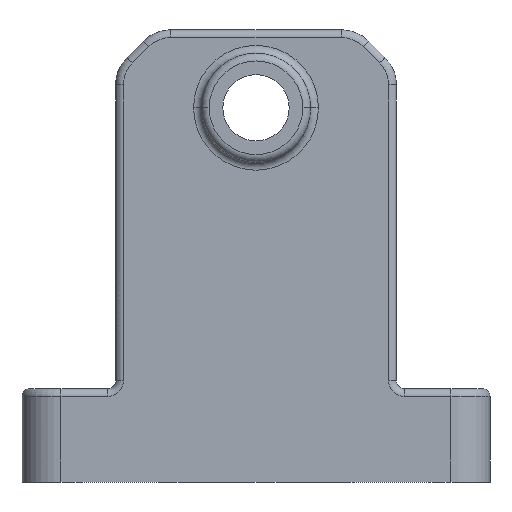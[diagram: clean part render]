
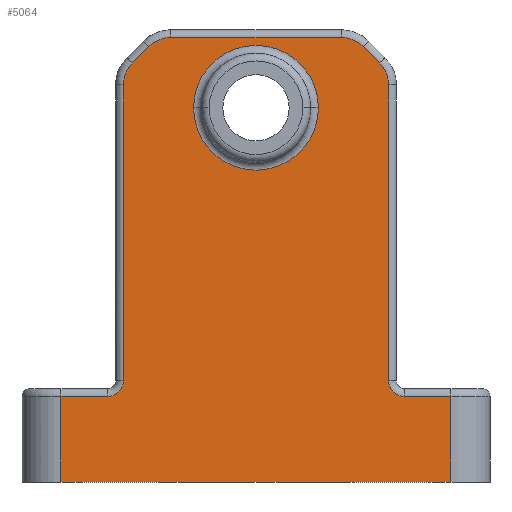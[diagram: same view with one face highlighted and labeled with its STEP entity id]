
A CAD part, front view. The second image highlights one B-rep face of the part: STEP entity #5064.
In plain terms, the highlighted planar face has unit normal (0, -1, 0).
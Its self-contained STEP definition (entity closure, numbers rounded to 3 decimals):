
#35=DIRECTION('',(1.,0.,0.));
#36=VECTOR('',#35,50.);
#37=CARTESIAN_POINT('',(-25.,-30.,0.));
#38=LINE('',#37,#36);
#1541=CARTESIAN_POINT('',(10.929,-30.,53.));
#1542=DIRECTION('',(0.,1.,0.));
#1543=DIRECTION('',(0.,0.,1.));
#1544=AXIS2_PLACEMENT_3D('',#1541,#1542,#1543);
#1546=DIRECTION('',(0.707,0.,-0.707));
#1547=VECTOR('',#1546,2.929);
#1548=CARTESIAN_POINT('',(13.757,-30.,55.828));
#1549=LINE('',#1548,#1547);
#1550=CARTESIAN_POINT('',(13.,-30.,50.929));
#1551=DIRECTION('',(0.,1.,0.));
#1552=DIRECTION('',(0.707,0.,0.707));
#1553=AXIS2_PLACEMENT_3D('',#1550,#1551,#1552);
#1555=DIRECTION('',(0.,0.,-1.));
#1556=VECTOR('',#1555,37.929);
#1557=CARTESIAN_POINT('',(17.,-30.,50.929));
#1558=LINE('',#1557,#1556);
#1559=CARTESIAN_POINT('',(19.,-30.,13.));
#1560=DIRECTION('',(0.,-1.,0.));
#1561=DIRECTION('',(-1.,0.,0.));
#1562=AXIS2_PLACEMENT_3D('',#1559,#1560,#1561);
#1564=DIRECTION('',(1.,0.,0.));
#1565=VECTOR('',#1564,6.);
#1566=CARTESIAN_POINT('',(19.,-30.,11.));
#1567=LINE('',#1566,#1565);
#1568=DIRECTION('',(0.,0.,-1.));
#1569=VECTOR('',#1568,11.);
#1570=CARTESIAN_POINT('',(25.,-30.,11.));
#1571=LINE('',#1570,#1569);
#1572=DIRECTION('',(0.,0.,-1.));
#1573=VECTOR('',#1572,11.);
#1574=CARTESIAN_POINT('',(-25.,-30.,11.));
#1575=LINE('',#1574,#1573);
#1576=DIRECTION('',(1.,0.,0.));
#1577=VECTOR('',#1576,6.);
#1578=CARTESIAN_POINT('',(-25.,-30.,11.));
#1579=LINE('',#1578,#1577);
#1580=CARTESIAN_POINT('',(-19.,-30.,13.));
#1581=DIRECTION('',(0.,-1.,0.));
#1582=DIRECTION('',(0.,0.,-1.));
#1583=AXIS2_PLACEMENT_3D('',#1580,#1581,#1582);
#1585=DIRECTION('',(0.,0.,1.));
#1586=VECTOR('',#1585,37.929);
#1587=CARTESIAN_POINT('',(-17.,-30.,13.));
#1588=LINE('',#1587,#1586);
#1589=CARTESIAN_POINT('',(-13.,-30.,50.929));
#1590=DIRECTION('',(0.,1.,0.));
#1591=DIRECTION('',(-1.,0.,0.));
#1592=AXIS2_PLACEMENT_3D('',#1589,#1590,#1591);
#1594=DIRECTION('',(0.707,0.,0.707));
#1595=VECTOR('',#1594,2.929);
#1596=CARTESIAN_POINT('',(-15.828,-30.,53.757));
#1597=LINE('',#1596,#1595);
#1598=CARTESIAN_POINT('',(-10.929,-30.,53.));
#1599=DIRECTION('',(0.,1.,0.));
#1600=DIRECTION('',(-0.707,0.,0.707));
#1601=AXIS2_PLACEMENT_3D('',#1598,#1599,#1600);
#1603=DIRECTION('',(1.,0.,0.));
#1604=VECTOR('',#1603,21.858);
#1605=CARTESIAN_POINT('',(-10.929,-30.,57.));
#1606=LINE('',#1605,#1604);
#1607=CARTESIAN_POINT('',(0.,-30.,48.));
#1608=DIRECTION('',(0.,-1.,0.));
#1609=DIRECTION('',(-1.,0.,0.));
#1610=AXIS2_PLACEMENT_3D('',#1607,#1608,#1609);
#1612=CARTESIAN_POINT('',(0.,-30.,48.));
#1613=DIRECTION('',(0.,-1.,0.));
#1614=DIRECTION('',(1.,0.,0.));
#1615=AXIS2_PLACEMENT_3D('',#1612,#1613,#1614);
#2273=CARTESIAN_POINT('',(25.,-30.,0.));
#2275=VERTEX_POINT('',#2273);
#2276=CARTESIAN_POINT('',(-25.,-30.,0.));
#2278=VERTEX_POINT('',#2276);
#2476=CARTESIAN_POINT('',(10.929,-30.,57.));
#2477=CARTESIAN_POINT('',(13.757,-30.,55.828));
#2478=VERTEX_POINT('',#2476);
#2479=VERTEX_POINT('',#2477);
#2482=CARTESIAN_POINT('',(15.828,-30.,53.757));
#2483=VERTEX_POINT('',#2482);
#2486=CARTESIAN_POINT('',(17.,-30.,50.929));
#2487=VERTEX_POINT('',#2486);
#2490=CARTESIAN_POINT('',(17.,-30.,13.));
#2491=VERTEX_POINT('',#2490);
#2494=CARTESIAN_POINT('',(19.,-30.,11.));
#2495=VERTEX_POINT('',#2494);
#2498=CARTESIAN_POINT('',(25.,-30.,11.));
#2499=VERTEX_POINT('',#2498);
#2574=CARTESIAN_POINT('',(-25.,-30.,11.));
#2575=VERTEX_POINT('',#2574);
#2578=CARTESIAN_POINT('',(-19.,-30.,11.));
#2579=VERTEX_POINT('',#2578);
#2582=CARTESIAN_POINT('',(-17.,-30.,13.));
#2583=VERTEX_POINT('',#2582);
#2586=CARTESIAN_POINT('',(-17.,-30.,50.929));
#2587=VERTEX_POINT('',#2586);
#2590=CARTESIAN_POINT('',(-15.828,-30.,53.757));
#2591=VERTEX_POINT('',#2590);
#2594=CARTESIAN_POINT('',(-13.757,-30.,55.828));
#2595=VERTEX_POINT('',#2594);
#2598=CARTESIAN_POINT('',(-10.929,-30.,57.));
#2599=VERTEX_POINT('',#2598);
#2672=CARTESIAN_POINT('',(-8.,-30.,48.));
#2673=CARTESIAN_POINT('',(8.,-30.,48.));
#2674=VERTEX_POINT('',#2672);
#2675=VERTEX_POINT('',#2673);
#5025=CARTESIAN_POINT('',(-30.,-30.,0.));
#5026=DIRECTION('',(0.,-1.,0.));
#5027=DIRECTION('',(1.,0.,0.));
#5028=AXIS2_PLACEMENT_3D('',#5025,#5026,#5027);
#5029=PLANE('',#5028);
#5031=ORIENTED_EDGE('',*,*,#5030,.T.);
#5032=ORIENTED_EDGE('',*,*,#4992,.T.);
#5033=ORIENTED_EDGE('',*,*,#5007,.T.);
#5034=ORIENTED_EDGE('',*,*,#3926,.T.);
#5035=ORIENTED_EDGE('',*,*,#3941,.T.);
#5036=ORIENTED_EDGE('',*,*,#3154,.T.);
#5038=ORIENTED_EDGE('',*,*,#5037,.T.);
#5039=ORIENTED_EDGE('',*,*,#2711,.F.);
#5041=ORIENTED_EDGE('',*,*,#5040,.F.);
#5043=ORIENTED_EDGE('',*,*,#5042,.T.);
#5045=ORIENTED_EDGE('',*,*,#5044,.T.);
#5047=ORIENTED_EDGE('',*,*,#5046,.T.);
#5049=ORIENTED_EDGE('',*,*,#5048,.T.);
#5051=ORIENTED_EDGE('',*,*,#5050,.T.);
#5053=ORIENTED_EDGE('',*,*,#5052,.T.);
#5055=ORIENTED_EDGE('',*,*,#5054,.T.);
#5056=EDGE_LOOP('',(#5031,#5032,#5033,#5034,#5035,#5036,#5038,#5039,#5041,#5043,
#5045,#5047,#5049,#5051,#5053,#5055));
#5057=FACE_OUTER_BOUND('',#5056,.F.);
#5059=ORIENTED_EDGE('',*,*,#5058,.T.);
#5061=ORIENTED_EDGE('',*,*,#5060,.T.);
#5062=EDGE_LOOP('',(#5059,#5061));
#5063=FACE_BOUND('',#5062,.F.);
#5064=ADVANCED_FACE('',(#5057,#5063),#5029,.T.);
#1545=CIRCLE('',#1544,4.);
#1554=CIRCLE('',#1553,4.);
#1563=CIRCLE('',#1562,2.);
#1584=CIRCLE('',#1583,2.);
#1593=CIRCLE('',#1592,4.);
#1602=CIRCLE('',#1601,4.);
#1611=CIRCLE('',#1610,8.);
#1616=CIRCLE('',#1615,8.);
#2711=EDGE_CURVE('',#2278,#2275,#38,.T.);
#3154=EDGE_CURVE('',#2495,#2499,#1567,.T.);
#3926=EDGE_CURVE('',#2487,#2491,#1558,.T.);
#3941=EDGE_CURVE('',#2491,#2495,#1563,.T.);
#4992=EDGE_CURVE('',#2479,#2483,#1549,.T.);
#5007=EDGE_CURVE('',#2483,#2487,#1554,.T.);
#5030=EDGE_CURVE('',#2478,#2479,#1545,.T.);
#5037=EDGE_CURVE('',#2499,#2275,#1571,.T.);
#5040=EDGE_CURVE('',#2575,#2278,#1575,.T.);
#5042=EDGE_CURVE('',#2575,#2579,#1579,.T.);
#5044=EDGE_CURVE('',#2579,#2583,#1584,.T.);
#5046=EDGE_CURVE('',#2583,#2587,#1588,.T.);
#5048=EDGE_CURVE('',#2587,#2591,#1593,.T.);
#5050=EDGE_CURVE('',#2591,#2595,#1597,.T.);
#5052=EDGE_CURVE('',#2595,#2599,#1602,.T.);
#5054=EDGE_CURVE('',#2599,#2478,#1606,.T.);
#5058=EDGE_CURVE('',#2674,#2675,#1611,.T.);
#5060=EDGE_CURVE('',#2675,#2674,#1616,.T.);
